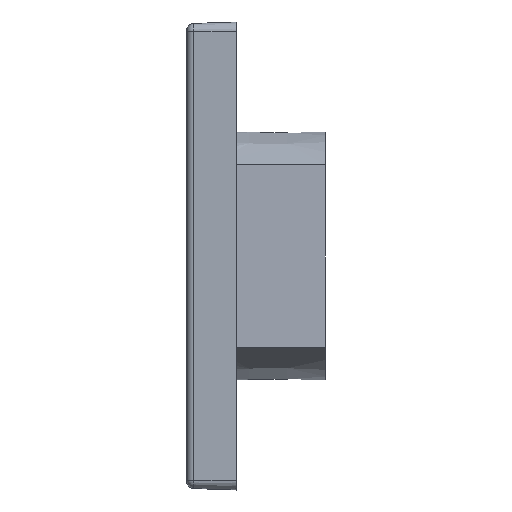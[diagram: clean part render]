
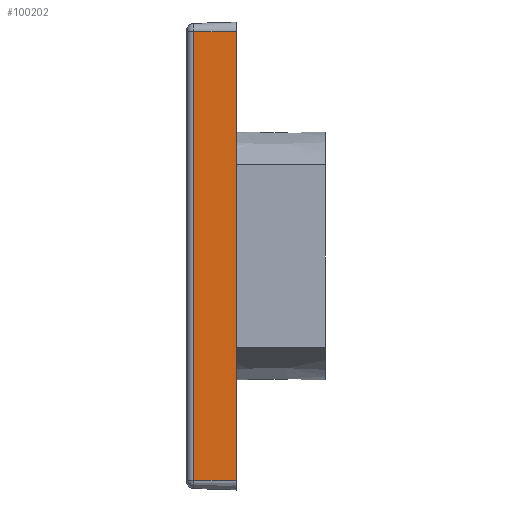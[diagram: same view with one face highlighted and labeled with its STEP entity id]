
A CAD part, left-side view. The second image highlights one B-rep face of the part: STEP entity #100202.
In plain terms, the highlighted planar face has unit normal (-0.999, 0.035, 0).
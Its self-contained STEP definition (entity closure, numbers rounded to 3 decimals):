
#6108 = CARTESIAN_POINT ( 'NONE',  ( -47., 0., -45. ) ) ;
#6861 = DIRECTION ( 'NONE',  ( 0., 0., -1. ) ) ;
#8763 = CARTESIAN_POINT ( 'NONE',  ( -47., 0., 0. ) ) ;
#9294 = FACE_OUTER_BOUND ( 'NONE', #88866, .T. ) ;
#11459 = AXIS2_PLACEMENT_3D ( 'NONE', #19921, #56679, #56292 ) ;
#19604 = VECTOR ( 'NONE', #36074, 1000. ) ;
#19921 = CARTESIAN_POINT ( 'NONE',  ( -47., 0., 0. ) ) ;
#25539 = CARTESIAN_POINT ( 'NONE',  ( -46.701, 8.552, -45. ) ) ;
#26607 = LINE ( 'NONE', #8763, #19604 ) ;
#34419 = CARTESIAN_POINT ( 'NONE',  ( -47., 0., 45. ) ) ;
#36074 = DIRECTION ( 'NONE',  ( 0., 0., 1. ) ) ;
#36633 = VERTEX_POINT ( 'NONE', #68555 ) ;
#36968 = LINE ( 'NONE', #77226, #62396 ) ;
#38395 = ORIENTED_EDGE ( 'NONE', *, *, #39625, .T. ) ;
#39625 = EDGE_CURVE ( 'NONE', #86505, #36633, #100803, .T. ) ;
#44283 = LINE ( 'NONE', #25539, #74123 ) ;
#46355 = VERTEX_POINT ( 'NONE', #34419 ) ;
#46545 = ORIENTED_EDGE ( 'NONE', *, *, #56484, .T. ) ;
#47012 = ORIENTED_EDGE ( 'NONE', *, *, #49918, .T. ) ;
#49918 = EDGE_CURVE ( 'NONE', #79381, #86505, #44283, .T. ) ;
#51241 = CARTESIAN_POINT ( 'NONE',  ( -46.701, 8.552, 45. ) ) ;
#51569 = EDGE_CURVE ( 'NONE', #36633, #46355, #26607, .T. ) ;
#55168 = ORIENTED_EDGE ( 'NONE', *, *, #51569, .T. ) ;
#56292 = DIRECTION ( 'NONE',  ( -0.035, -0.999, 0. ) ) ;
#56484 = EDGE_CURVE ( 'NONE', #46355, #79381, #36968, .T. ) ;
#56679 = DIRECTION ( 'NONE',  ( -0.999, 0.035, 0. ) ) ;
#61529 = DIRECTION ( 'NONE',  ( -0.035, -0.999, 0. ) ) ;
#62396 = VECTOR ( 'NONE', #66860, 1000. ) ;
#66860 = DIRECTION ( 'NONE',  ( 0.035, 0.999, 0. ) ) ;
#68555 = CARTESIAN_POINT ( 'NONE',  ( -47., 0., -45. ) ) ;
#74123 = VECTOR ( 'NONE', #6861, 1000. ) ;
#74147 = PLANE ( 'NONE',  #11459 ) ;
#77226 = CARTESIAN_POINT ( 'NONE',  ( -47., 0., 45. ) ) ;
#79381 = VERTEX_POINT ( 'NONE', #51241 ) ;
#86505 = VERTEX_POINT ( 'NONE', #95121 ) ;
#88866 = EDGE_LOOP ( 'NONE', ( #46545, #47012, #38395, #55168 ) ) ;
#95121 = CARTESIAN_POINT ( 'NONE',  ( -46.701, 8.552, -45. ) ) ;
#95145 = VECTOR ( 'NONE', #61529, 1000. ) ;
#100202 = ADVANCED_FACE ( 'NONE', ( #9294 ), #74147, .T. ) ;
#100803 = LINE ( 'NONE', #6108, #95145 ) ;
